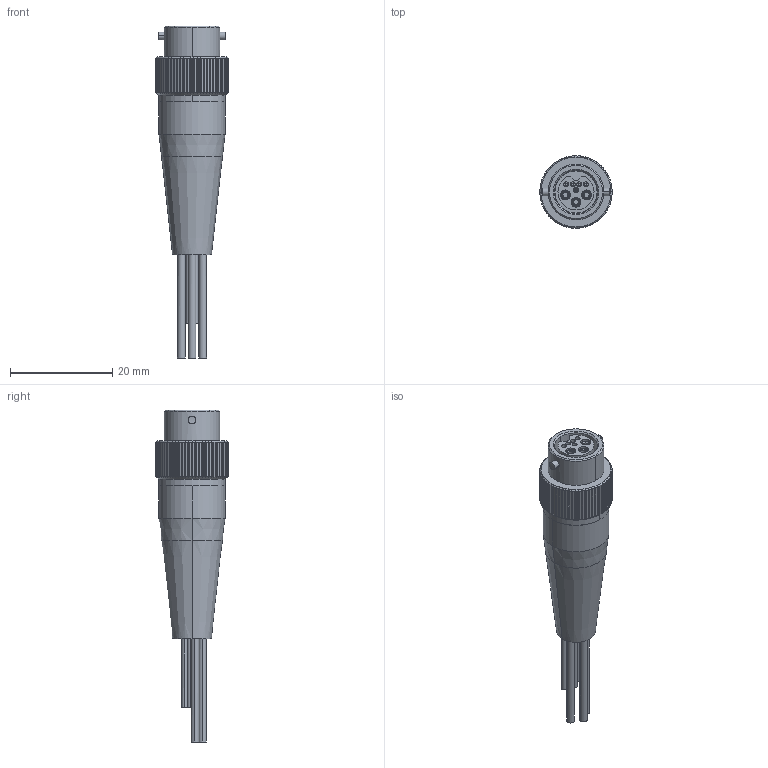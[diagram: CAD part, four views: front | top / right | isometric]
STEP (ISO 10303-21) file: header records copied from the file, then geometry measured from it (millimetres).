
FILE_DESCRIPTION (( 'STEP AP214' ), '1' );
FILE_NAME ('A90161-001 REV A.STEP', '2018-01-24T22:23:37', ( '' ), ( '' ), 'SwSTEP 2.0', 'SolidWorks 2017', '' );
FILE_SCHEMA (( 'AUTOMOTIVE_DESIGN' ));
Length unit declared in the file: inch
Products named in the file (1): A90161-001 REV_A
Bounding box: 14.2 x 14.2 x 65.06 mm (x, y, z)
Volume: 4139 mm3; surface area: 4425.7 mm2
Topology: 1 solids, 2 shells, 418 faces, 1104 edges, 722 vertices
Faces by surface type: plane 187, cylinder 179, cone 38, torus 8, bspline 4, sphere 2
Entity records: 14149 total; most frequent: CARTESIAN_POINT 4031, ORIENTED_EDGE 2208, DIRECTION 1993, EDGE_CURVE 1104, AXIS2_PLACEMENT_3D 812, VERTEX_POINT 722, EDGE_LOOP 462, FACE_OUTER_BOUND 418
